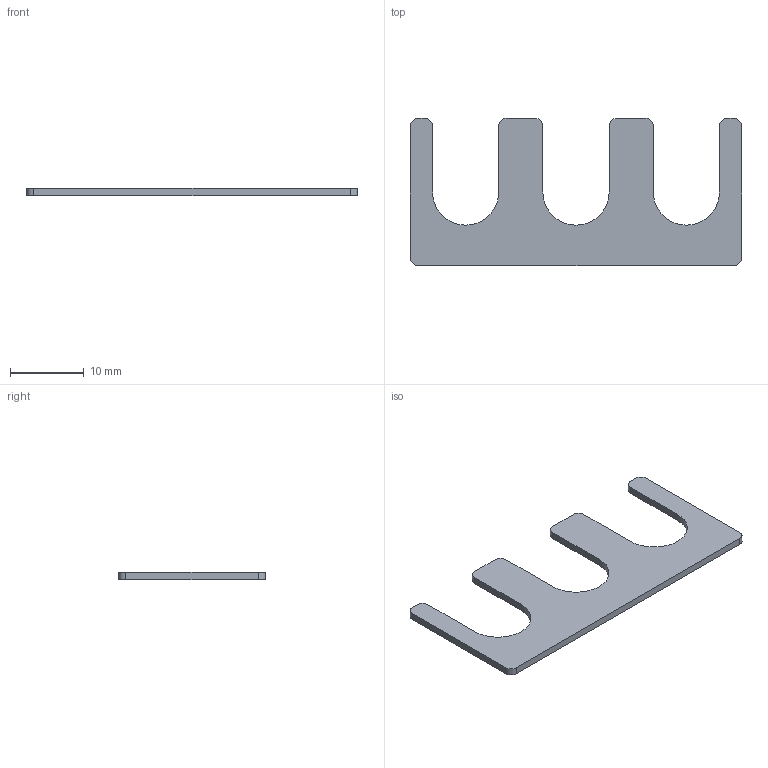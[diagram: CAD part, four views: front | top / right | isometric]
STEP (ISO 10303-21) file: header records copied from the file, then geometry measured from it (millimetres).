
FILE_DESCRIPTION (( 'STEP AP214' ), '1' );
FILE_NAME ('S-45x20-08-03-10-VA-00-00__Notum.STEP', '2018-03-29T11:21:36', ( '' ), ( '' ), 'SwSTEP 2.0', 'SolidWorks 2015', '' );
FILE_SCHEMA (( 'AUTOMOTIVE_DESIGN' ));
Length unit declared in the file: millimetre
Products named in the file (1): S-45x20-08-03-10-VA-00-00__Notum
Bounding box: 45 x 20 x 1 mm (x, y, z)
Volume: 532.4 mm3; surface area: 1266 mm2
Topology: 1 solids, 1 shells, 28 faces, 78 edges, 52 vertices
Faces by surface type: plane 15, cylinder 13
Entity records: 942 total; most frequent: DIRECTION 162, CARTESIAN_POINT 159, ORIENTED_EDGE 156, EDGE_CURVE 78, AXIS2_PLACEMENT_3D 55, VERTEX_POINT 52, LINE 52, VECTOR 52
